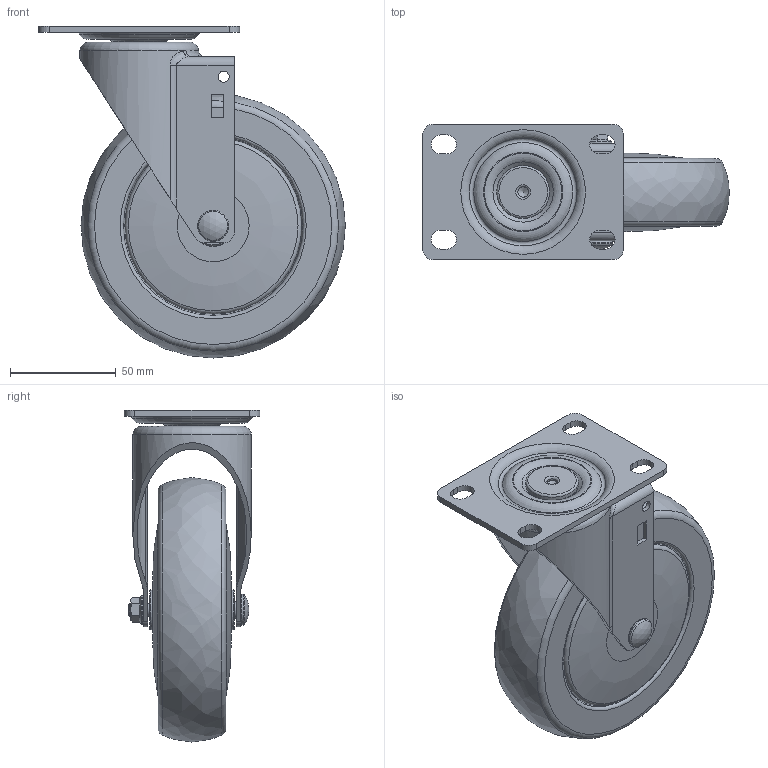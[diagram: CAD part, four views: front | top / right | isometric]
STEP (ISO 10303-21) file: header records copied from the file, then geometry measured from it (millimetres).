
FILE_DESCRIPTION((''),'2;1');
FILE_NAME('E:\GL-홈피용3D\3d step\가져온 구성요소\GL-125-ASF\GL-125-ASF.stp','2011-11-21T09:29:25',('Administrator'),(''),'Autodesk Inventor 2011','Autodesk Inventor 2011','');
FILE_SCHEMA(('AUTOMOTIVE_DESIGN { 1 0 10303 214 1 1 1 1 }'));
Length unit declared in the file: millimetre
Products named in the file (1): GL-125-ASF
Bounding box: 145 x 64 x 157 mm (x, y, z)
Volume: 325583.9 mm3; surface area: 122278.2 mm2
Topology: 7 solids, 10 shells, 310 faces, 709 edges, 457 vertices
Faces by surface type: plane 100, torus 95, cylinder 71, bspline 22, cone 21, sphere 1
Full cylindrical faces by diameter (mm): 5 x1, 5.2 x2, 6 x2, 6.2 x1, 7 x1, 8 x1, 8.2 x2, 11 x1, 11.1 x1, 11.2 x1, 14 x1, 14.6 x1, 15 x3, 16 x1, 19 x2, 21.667 x2, 21.867 x2, 24.645 x1, 25 x1, 28.133 x2, 28.333 x2, 32.4 x2, 41 x1, 43 x2, 47 x2, 80.5 x2, 83.5 x2, 85 x2
Entity records: 9016 total; most frequent: CARTESIAN_POINT 2986, DIRECTION 1286, ORIENTED_EDGE 954, AXIS2_PLACEMENT_3D 576, EDGE_LOOP 547, EDGE_CURVE 477, VERTEX_POINT 386, FACE_OUTER_BOUND 310
